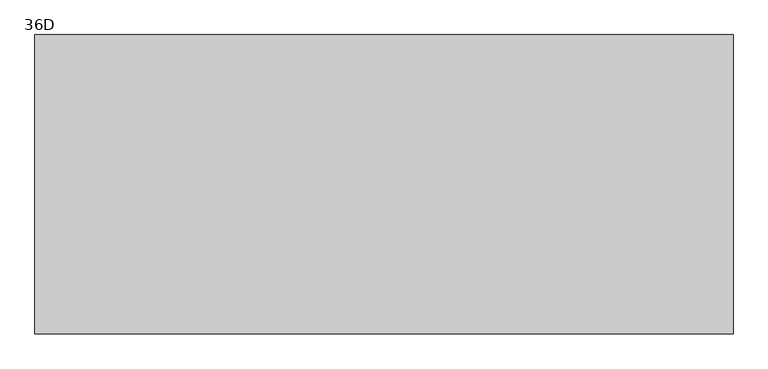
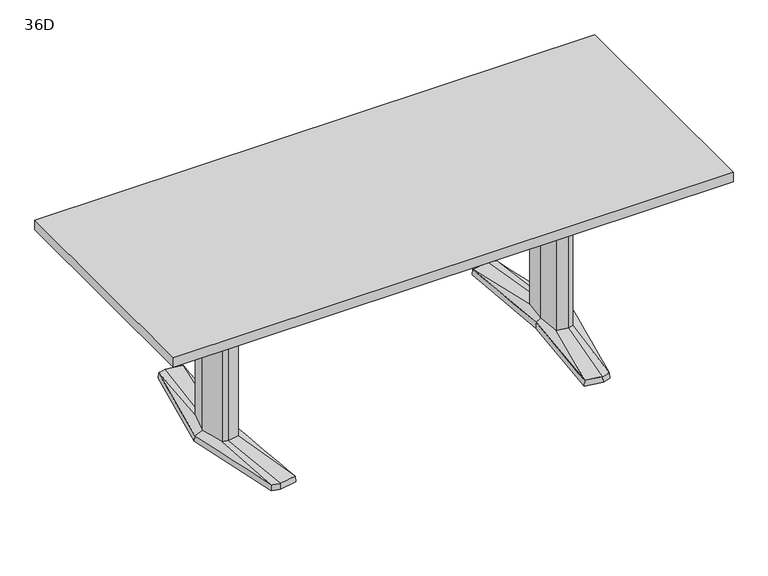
"""IFC4 building model written with IfcOpenShell, lengths in millimetres: furniture geometry, Coalesse_AM_Table_Conference_ETable2_Rectangular_84in_AluminiumBase : 36D."""

import ifcopenshell
import ifcopenshell.guid

model = None  # the IFC model being written
_history = None  # IfcOwnerHistory: only IFC2X3 demands one
_inside = {}  # id of a spatial element -> (the spatial element, [elements in it])
_under = {}  # id of a project, library or spatial element -> (it, [spatial elements below it])
_declared = {}  # id of a project -> (the project, [libraries it declares])
_typed = {}  # id of a type object -> (the type object, [elements of that type])
_made_of = {}  # id of a material, layer set ... -> (it, [elements and type objects made of it])


def new_model(schema):
    """Start an empty IFC model of exactly this schema.

    Asked for "IFC4X3", IfcOpenShell would pick the latest addendum, in which some entities
    have other attributes; the version numbers below select the first issue.
    IFC2X3 requires an IfcOwnerHistory on every rooted entity: one is made here for all.
    """
    global model, _history
    if schema == "IFC4X3":
        model = ifcopenshell.file(schema_version=(4, 3, 0, 0))
    else:
        model = ifcopenshell.file(schema=schema)
    _inside.clear()
    _under.clear()
    _declared.clear()
    _typed.clear()
    _made_of.clear()
    _history = None
    if model.schema == "IFC2X3":
        org = make("IfcOrganization", Name="unknown")
        user = make(
            "IfcPersonAndOrganization",
            ThePerson=make("IfcPerson", FamilyName="unknown"),
            TheOrganization=org,
        )
        app = make(
            "IfcApplication",
            ApplicationDeveloper=org,
            Version="unknown",
            ApplicationFullName="unknown",
            ApplicationIdentifier="unknown",
        )
        _history = make(
            "IfcOwnerHistory",
            OwningUser=user,
            OwningApplication=app,
            ChangeAction="ADDED",
            CreationDate=0,
        )
    return model


def make(cls, **values):
    """One entity of the class cls with the attributes given. An attribute that is None is left unset."""
    return model.create_entity(
        cls, **{name: value for name, value in values.items() if value is not None}
    )


def rooted(cls, **values):
    """An entity with a GlobalId (a new one), such as an element, a storey or a relation."""
    return make(cls, GlobalId=ifcopenshell.guid.new(), OwnerHistory=_history, **values)


def si_unit(unit_type, name, prefix=None):
    """IfcSIUnit, for example si_unit("LENGTHUNIT", "METRE", prefix="MILLI")."""
    return make("IfcSIUnit", UnitType=unit_type, Prefix=prefix, Name=name)


def assignment(units):
    """IfcUnitAssignment: the units of a project."""
    return None if units is None else make("IfcUnitAssignment", Units=units)


def point(xyz):
    """IfcCartesianPoint."""
    return None if xyz is None else make("IfcCartesianPoint", Coordinates=xyz)


def direction(xyz):
    """IfcDirection."""
    return None if xyz is None else make("IfcDirection", DirectionRatios=xyz)


def frame(location, z_axis=None, x_axis=None):
    """IfcAxis2Placement3D, a coordinate frame: its origin and axes. An axis left out is left unset."""
    return make(
        "IfcAxis2Placement3D",
        Location=point(location),
        Axis=direction(z_axis),
        RefDirection=direction(x_axis),
    )


def origin():
    """The frame at (0, 0, 0) with its axes left unset."""
    return frame((0.0, 0.0, 0.0))


def place(relative_to, where):
    """IfcLocalPlacement: puts the frame where relative to a parent placement (None: the world)."""
    return make(
        "IfcLocalPlacement", PlacementRelTo=relative_to, RelativePlacement=where
    )


def context(
    kind, dimensions, precision=None, world=None, true_north=None, identifier=None
):
    """IfcGeometricRepresentationContext, for example the 3D "Model" context."""
    return make(
        "IfcGeometricRepresentationContext",
        ContextIdentifier=identifier,
        ContextType=kind,
        CoordinateSpaceDimension=dimensions,
        Precision=precision,
        WorldCoordinateSystem=world,
        TrueNorth=true_north,
    )


def project(units=None, contexts=None):
    """IfcProject with its units and contexts."""
    return rooted(
        "IfcProject",
        Name="project",
        RepresentationContexts=contexts,
        UnitsInContext=assignment(units),
    )


def spatial(cls, under=None, at=None, **own):
    """A site, building, storey or space (cls), placed at a placement, below another one or the project."""
    s = rooted(cls, ObjectPlacement=at, **own)
    if under is not None:
        _under.setdefault(under.id(), (under, []))[1].append(s)
    return s


def polyline(points):
    """IfcPolyline through the points."""
    return make("IfcPolyline", Points=[point(p) for p in points])


def outline(outer, holes=None, kind="AREA"):
    """IfcArbitraryClosedProfileDef: a profile drawn as a closed curve; with holes, ...WithVoids."""
    if holes is None:
        return make("IfcArbitraryClosedProfileDef", ProfileType=kind, OuterCurve=outer)
    return make(
        "IfcArbitraryProfileDefWithVoids",
        ProfileType=kind,
        OuterCurve=outer,
        InnerCurves=holes,
    )


def extrude(swept, where, along, depth):
    """IfcExtrudedAreaSolid: the profile swept, set in the frame where, extruded along a direction by depth."""
    return make(
        "IfcExtrudedAreaSolid",
        SweptArea=swept,
        Position=where,
        ExtrudedDirection=direction(along),
        Depth=depth,
    )


def shape(context_of_items, identifier, shape_type, items):
    """IfcShapeRepresentation: the items that make up one representation, for example the "Body"."""
    return make(
        "IfcShapeRepresentation",
        ContextOfItems=context_of_items,
        RepresentationIdentifier=identifier,
        RepresentationType=shape_type,
        Items=items,
    )


def source(mapping_origin, context_of_items, identifier, shape_type, items):
    """IfcRepresentationMap: a shape defined once, which mapped items show again and again."""
    return make(
        "IfcRepresentationMap",
        MappingOrigin=mapping_origin,
        MappedRepresentation=shape(context_of_items, identifier, shape_type, items),
    )


def transform(
    local_origin,
    x_axis=None,
    y_axis=None,
    z_axis=None,
    scale=None,
    scale2=None,
    scale3=None,
    uniform=True,
):
    """IfcCartesianTransformationOperator3D, or its non-uniform kind. x_axis, y_axis, z_axis: its Axis1, 2, 3."""
    if uniform:
        return make(
            "IfcCartesianTransformationOperator3D",
            Axis1=direction(x_axis),
            Axis2=direction(y_axis),
            LocalOrigin=point(local_origin),
            Scale=scale,
            Axis3=direction(z_axis),
        )
    return make(
        "IfcCartesianTransformationOperator3DnonUniform",
        Axis1=direction(x_axis),
        Axis2=direction(y_axis),
        LocalOrigin=point(local_origin),
        Scale=scale,
        Axis3=direction(z_axis),
        Scale2=scale2,
        Scale3=scale3,
    )


def mapped(mapping_source, mapping_target):
    """IfcMappedItem: shows the shape of a source again, moved by a transform."""
    return make(
        "IfcMappedItem", MappingSource=mapping_source, MappingTarget=mapping_target
    )


def made_of(thing, what):
    """Note that an element or type object is made of a material, layer set ...; save() writes the relation."""
    if what is not None:
        _made_of.setdefault(what.id(), (what, []))[1].append(thing)
    return thing


def element(
    cls,
    number,
    at=None,
    inside=None,
    cuts=None,
    type_object=None,
    material=None,
    context=None,
    identifier="Body",
    shape_type=None,
    held_by="IfcProductDefinitionShape",
    body=None,
    shapes=None,
    **own,
):
    """One element of the class cls, such as IfcWall. Its Tag is "e" and its number.

    at: its placement. inside: the storey or other place that contains it. cuts: it is an
    opening in that element (IfcRelVoidsElement). A single representation is given by context,
    identifier, shape_type and body (its items); several are given by shapes. held_by: the class
    of the entity that holds the representations. save() writes the other relations.
    """
    e = rooted(cls, Tag="e%d" % number, ObjectPlacement=at, **own)
    if body is not None:
        shapes = [shape(context, identifier, shape_type, body)]
    if shapes is not None:
        e.Representation = make(held_by, Representations=shapes)
    if inside is not None:
        _inside.setdefault(inside.id(), (inside, []))[1].append(e)
    if cuts is not None:
        rooted(
            "IfcRelVoidsElement", RelatingBuildingElement=cuts, RelatedOpeningElement=e
        )
    if type_object is not None:
        _typed.setdefault(type_object.id(), (type_object, []))[1].append(e)
    return made_of(e, material)


def aggregate(whole, parts):
    """IfcRelAggregates: a whole, such as a stair, and the parts it consists of."""
    return rooted("IfcRelAggregates", RelatingObject=whole, RelatedObjects=parts)


def save(model, path):
    """Write the relations noted so far, then the file.

    IfcRelAggregates (storeys below a building ...), IfcRelContainedInSpatialStructure (elements
    in a storey), IfcRelDefinesByType, IfcRelAssociatesMaterial and IfcRelDeclares: one each for
    every whole, place, type object, material and project.
    """
    for whole, parts in _under.values():
        aggregate(whole, parts)
    for where, things in _inside.values():
        rooted(
            "IfcRelContainedInSpatialStructure",
            RelatedElements=things,
            RelatingStructure=where,
        )
    for kind, things in _typed.values():
        rooted("IfcRelDefinesByType", RelatedObjects=things, RelatingType=kind)
    for what, things in _made_of.values():
        rooted("IfcRelAssociatesMaterial", RelatedObjects=things, RelatingMaterial=what)
    for by, libraries in _declared.values():
        rooted("IfcRelDeclares", RelatingContext=by, RelatedDefinitions=libraries)
    model.write(path)


def plane_surface(at):
    """IfcPlane: the flat surface through the origin of the frame at, square to its z axis."""
    return make("IfcPlane", Position=at)


def spline_surface(u_degree, v_degree, points, u_multiplicities, v_multiplicities, u_knots, v_knots, weights=None):
    """IfcBSplineSurfaceWithKnots; with weights, IfcRationalBSplineSurfaceWithKnots. points: one row for each step in u."""
    own = dict(
        UDegree=u_degree,
        VDegree=v_degree,
        ControlPointsList=[[point(p) for p in row] for row in points],
        SurfaceForm="UNSPECIFIED",
        UClosed=False,
        VClosed=False,
        SelfIntersect=False,
        UMultiplicities=u_multiplicities,
        VMultiplicities=v_multiplicities,
        UKnots=u_knots,
        VKnots=v_knots,
        KnotSpec="UNSPECIFIED",
    )
    if weights is None:
        return make("IfcBSplineSurfaceWithKnots", **own)
    return make("IfcRationalBSplineSurfaceWithKnots", WeightsData=weights, **own)


def advanced_brep(points, edges, surfaces, faces):
    """IfcAdvancedBrep: a solid bounded by faces that lie on surfaces and meet in shared edges.

    An edge is (start, end): straight between two places in points (the first is 0);
    or (start, end, curve); or (start, end, curve, False) where it runs against its curve.
    A face is (place in surfaces, loops), or (place, loops, False) where it looks against
    its surface's normal. A loop lists edges by number (the first is 1), with a minus sign
    where the edge is run from its end to its start. The first loop is the outer one.
    """
    corners = [point(p) for p in points]
    vertices = [make("IfcVertexPoint", VertexGeometry=c) for c in corners]
    made = []
    for start, end, *more in edges:
        made.append(
            make(
                "IfcEdgeCurve",
                EdgeStart=vertices[start],
                EdgeEnd=vertices[end],
                EdgeGeometry=more[0] if more else make("IfcPolyline", Points=[corners[start], corners[end]]),
                SameSense=more[1] if len(more) > 1 else True,
            )
        )
    hull = []
    for where, loops, *sense in faces:
        bounds = []
        for j, loop in enumerate(loops):
            ring = [make("IfcOrientedEdge", EdgeElement=made[abs(k) - 1], Orientation=k > 0) for k in loop]
            bounds.append(
                make(
                    "IfcFaceOuterBound" if j == 0 else "IfcFaceBound",
                    Bound=make("IfcEdgeLoop", EdgeList=ring),
                    Orientation=True,
                )
            )
        hull.append(make("IfcAdvancedFace", Bounds=bounds, FaceSurface=surfaces[where], SameSense=sense[0] if sense else True))
    return make("IfcAdvancedBrep", Outer=make("IfcClosedShell", CfsFaces=hull))


def furniture_36d_40c2a438(model_context):
    return source(origin(), model_context, "Body", "SolidModel", [
        advanced_brep(
        [(614.8503471, -379.3768856, 25.4), (644.5756636, -371.5332654, 25.4), (668.2327243, -89.293702, 36.5125), (648.9795254, -94.605478, 36.5125), (606.0521001, -87.0529327, 36.5125), (551.7612538, -368.5071562, 25.4), (597.9364207, 0.0, 36.5125), (579.8389754, 0.3970149, 25.4), (606.0521001, 87.0529327, 36.5125), (551.7615002, 368.5172593, 25.4), (648.9795254, 94.605478, 36.5125), (614.8502233, 379.3769183, 25.4), (668.2327243, 89.293702, 36.5125), (644.7535458, 371.4863276, 25.4), (692.1595251, 0.0, 36.5125), (721.4851663, 0.0003516, 25.4), (578.2468742, 0.3968871, 3.175), (550.06875, 369.8367279, 3.175), (614.9213004, 381.0, 3.175), (646.1093245, 372.7704151, 3.175), (723.10625, 0.0, 3.175), (645.9309817, -372.8174744, 3.175), (614.9213004, -381.0, 3.175), (550.06875, -369.8264415, 3.175), (649.5979264, 107.6121478, 3.175), (594.3065451, 97.8843184, 3.175), (585.1810887, 0.0, 3.175), (594.3065451, -97.8843184, 3.175), (649.5979264, -107.6121478, 3.175), (678.6183473, -99.6056872, 3.175), (705.3083085, 0.0, 3.175), (678.6183473, 99.6056872, 3.175), (613.4286812, 346.9152841, 3.175), (557.7811371, 337.3364985, 3.175), (560.1889918, 324.8641942, 3.175), (612.8600644, 333.9306305, 3.175), (648.6725609, 324.4807859, 3.175), (647.5544526, 337.9105158, 3.175), (613.4286812, -346.9152841, 3.175), (647.5544526, -337.9105158, 3.175), (648.6725609, -324.4807859, 3.175), (612.8600644, -333.9306305, 3.175), (560.1889918, -324.8641942, 3.175), (557.7811371, -337.3364985, 3.175), (649.5979264, 107.6121478, 0.0), (678.6183473, 99.6056872, 0.0), (705.3083085, 0.0, 0.0), (678.6183473, -99.6056872, 0.0), (649.5979264, -107.6121478, 0.0), (594.3065451, -97.8843184, 0.0), (585.1810887, 0.0, 0.0), (594.3065451, 97.8843184, 0.0), (613.4286812, 346.9152841, 0.0), (647.5544526, 337.9105158, 0.0), (648.6725609, 324.4807859, 0.0), (612.8600644, 333.9306305, 0.0), (560.1889918, 324.8641942, 0.0), (557.7811371, 337.3364985, 0.0), (613.4286812, -346.9152841, 0.0), (557.7811371, -337.3364985, 0.0), (560.1889918, -324.8641942, 0.0), (612.8600644, -333.9306305, 0.0), (648.6725609, -324.4807859, 0.0), (647.5544526, -337.9105158, 0.0), (668.2327243, 89.293702, 698.5), (648.9795254, 94.605478, 698.5), (606.0521001, 87.0529327, 698.5), (597.9364207, 0.0, 698.5), (606.0521001, -87.0529327, 698.5), (648.9795254, -94.605478, 698.5), (668.2327243, -89.293702, 698.5), (692.1595251, 0.0, 698.5)],
        [
            (0, 1),
            (1, 2),
            (2, 3),
            (3, 0),
            (3, 4),
            (4, 5),
            (5, 0),
            (4, 6),
            (6, 7),
            (7, 5),
            (6, 8),
            (8, 9),
            (9, 7),
            (8, 10),
            (10, 11),
            (11, 9),
            (10, 12),
            (12, 13),
            (13, 11),
            (12, 14),
            (14, 15),
            (15, 13),
            (1, 15),
            (14, 2),
            (16, 17),
            (17, 18),
            (18, 19),
            (19, 20),
            (20, 21),
            (21, 22),
            (22, 23),
            (23, 16),
            (24, 25),
            (25, 26),
            (26, 27),
            (27, 28),
            (28, 29),
            (29, 30),
            (30, 31),
            (31, 24),
            (32, 33),
            (33, 34),
            (34, 35),
            (35, 36),
            (36, 37),
            (37, 32),
            (38, 39),
            (39, 40),
            (40, 41),
            (41, 42),
            (42, 43),
            (43, 38),
            (16, 7),
            (9, 17),
            (11, 18),
            (13, 19),
            (15, 20),
            (1, 21),
            (0, 22),
            (5, 23),
            (44, 45),
            (45, 46),
            (46, 47),
            (47, 48),
            (48, 49),
            (49, 50),
            (50, 51),
            (51, 44),
            (52, 53),
            (53, 54),
            (54, 55),
            (55, 56),
            (56, 57),
            (57, 52),
            (58, 59),
            (59, 60),
            (60, 61),
            (61, 62),
            (62, 63),
            (63, 58),
            (44, 24),
            (31, 45),
            (30, 46),
            (29, 47),
            (28, 48),
            (27, 49),
            (26, 50),
            (25, 51),
            (52, 32),
            (37, 53),
            (36, 54),
            (35, 55),
            (34, 56),
            (33, 57),
            (58, 38),
            (43, 59),
            (42, 60),
            (41, 61),
            (40, 62),
            (39, 63),
            (64, 65),
            (65, 66),
            (66, 67),
            (67, 68),
            (68, 69),
            (69, 70),
            (70, 71),
            (71, 64),
            (71, 14),
            (12, 64),
            (70, 2),
            (69, 3),
            (68, 4),
            (67, 6),
            (66, 8),
            (65, 10),
        ],
        [
            spline_surface(1, 1, [[(644.5756636, -371.5332654, 25.4), (614.8503471, -379.3768856, 25.4)], [(668.2327243, -89.293702, 36.5125), (648.9795254, -94.605478, 36.5125)]], [2, 2], [2, 2], [0.0, 1.0], [0.0, 1.0]),
            spline_surface(1, 1, [[(614.8503471, -379.3768856, 25.4), (551.7612538, -368.5071562, 25.4)], [(648.9795254, -94.605478, 36.5125), (606.0521001, -87.0529327, 36.5125)]], [2, 2], [2, 2], [0.0, 1.0], [0.0, 1.0]),
            spline_surface(1, 1, [[(551.7612538, -368.5071562, 25.4), (579.8389754, 0.3970149, 25.4)], [(606.0521001, -87.0529327, 36.5125), (597.9364207, 0.0, 36.5125)]], [2, 2], [2, 2], [0.0, 1.0], [0.0, 1.0]),
            spline_surface(1, 1, [[(579.8389754, 0.3970149, 25.4), (551.7615002, 368.5172593, 25.4)], [(597.9364207, 0.0, 36.5125), (606.0521001, 87.0529327, 36.5125)]], [2, 2], [2, 2], [0.0, 1.0], [0.0, 1.0]),
            spline_surface(1, 1, [[(551.7615002, 368.5172593, 25.4), (614.8502233, 379.3769183, 25.4)], [(606.0521001, 87.0529327, 36.5125), (648.9795254, 94.605478, 36.5125)]], [2, 2], [2, 2], [0.0, 1.0], [0.0, 1.0]),
            spline_surface(1, 1, [[(614.8502233, 379.3769183, 25.4), (644.7535458, 371.4863276, 25.4)], [(648.9795254, 94.605478, 36.5125), (668.2327243, 89.293702, 36.5125)]], [2, 2], [2, 2], [0.0, 1.0], [0.0, 1.0]),
            spline_surface(1, 1, [[(644.7535458, 371.4863276, 25.4), (721.4851663, 0.0003516, 25.4)], [(668.2327243, 89.293702, 36.5125), (692.1595251, 0.0, 36.5125)]], [2, 2], [2, 2], [0.0, 1.0], [0.0, 1.0]),
            spline_surface(1, 1, [[(721.4851663, 0.0003516, 25.4), (644.5756636, -371.5332654, 25.4)], [(692.1595251, 0.0, 36.5125), (668.2327243, -89.293702, 36.5125)]], [2, 2], [2, 2], [0.0, 1.0], [0.0, 1.0]),
            plane_surface(frame((615.4216914, 0.0450143, 3.175), z_axis=(0.0, 0.0, -1.0), x_axis=(-0.9669048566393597, -0.2551372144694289, 0.0))),
            plane_surface(frame((564.1578121, 185.1168075, 3.175), z_axis=(-0.9945699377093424, -0.07585840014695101, 0.0712470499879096), x_axis=(-0.07605167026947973, 0.9971038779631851, 0.0))),
            plane_surface(frame((582.4950252, 375.418364, 3.175), z_axis=(-0.1692071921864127, 0.9830019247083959, 0.07124704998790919), x_axis=(0.985506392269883, 0.16963829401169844, 0.0))),
            plane_surface(frame((630.5153124, 376.8852076, 3.175), z_axis=(0.2544888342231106, 0.9644476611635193, 0.07124704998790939), x_axis=(0.9669048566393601, -0.25513721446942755, 0.0))),
            plane_surface(frame((684.6077872, 186.3852076, 3.175), z_axis=(0.9768383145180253, 0.2017690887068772, 0.07124704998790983), x_axis=(0.20228315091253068, -0.9793270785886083, 0.0))),
            plane_surface(frame((684.5186158, -186.4087372, 3.175), z_axis=(0.9767507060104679, -0.20219276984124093, 0.07124704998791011), x_axis=(-0.2027079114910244, -0.9792392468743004, 0.0))),
            plane_surface(frame((630.426141, -376.9087372, 3.175), z_axis=(0.2544888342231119, -0.9644476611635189, 0.0712470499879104), x_axis=(-0.9669048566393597, -0.2551372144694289, 0.0))),
            plane_surface(frame((582.4950252, -375.4132207, 3.175), z_axis=(-0.16935861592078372, -0.982975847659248, 0.07124704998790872), x_axis=(-0.9854802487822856, 0.16979010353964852, 0.0))),
            plane_surface(frame((564.1578121, -184.7147772, 3.175), z_axis=(-0.9945820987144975, 0.07569878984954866, 0.07124704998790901), x_axis=(0.07589165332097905, 0.9971160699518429, 0.0))),
            plane_surface(frame((652.3571479, 106.8509046, 0.0), z_axis=(0.0, 0.0, -1.0000000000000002), x_axis=(-0.9639855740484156, 0.26595453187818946, 0.0))),
            plane_surface(frame((649.5979264, 107.6121478, 3.175), z_axis=(0.26595453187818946, 0.9639855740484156, 0.0), x_axis=(0.0, 0.0, -1.0))),
            plane_surface(frame((678.6183473, 99.6056872, 3.175), z_axis=(0.9659241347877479, 0.2588253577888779, 0.0), x_axis=(0.0, 0.0, -1.0))),
            plane_surface(frame((705.3083085, 0.0, 3.175), z_axis=(0.9659241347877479, -0.2588253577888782, 0.0), x_axis=(0.0, 0.0, -1.0))),
            plane_surface(frame((678.6183473, -99.6056872, 3.175), z_axis=(0.26595453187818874, -0.9639855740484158, 0.0), x_axis=(0.0, 0.0, -1.0))),
            plane_surface(frame((649.5979264, -107.6121478, 3.175), z_axis=(-0.17327617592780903, -0.9848732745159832, 0.0), x_axis=(0.0, 0.0, -1.0))),
            plane_surface(frame((594.3065451, -97.8843184, 3.175), z_axis=(-0.9956824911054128, -0.0928244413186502, 0.0), x_axis=(0.0, 0.0, -1.0))),
            plane_surface(frame((585.1810887, 0.0, 3.175), z_axis=(-0.9956824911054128, 0.09282444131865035, 0.0), x_axis=(0.0, 0.0, -1.0))),
            plane_surface(frame((594.3065451, 97.8843184, 3.175), z_axis=(-0.17327617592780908, 0.984873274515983, 0.0), x_axis=(0.0, 0.0, -1.0))),
            plane_surface(frame((613.4286812, 346.9152841, 3.175), z_axis=(0.25513721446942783, 0.9669048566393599, 0.0), x_axis=(0.0, 0.0, -1.0))),
            plane_surface(frame((647.5544526, 337.9105158, 3.175), z_axis=(0.9965521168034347, 0.0829691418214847, 0.0), x_axis=(0.0, 0.0, -1.0))),
            plane_surface(frame((648.6725609, 324.4807859, 3.175), z_axis=(-0.25513721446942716, -0.9669048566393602, 0.0), x_axis=(0.0, 0.0, -1.0))),
            plane_surface(frame((612.8600644, 333.9306305, 3.175), z_axis=(0.16963829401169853, -0.985506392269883, 0.0), x_axis=(0.0, 0.0, -1.0))),
            plane_surface(frame((560.1889918, 324.8641942, 3.175), z_axis=(-0.9818699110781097, -0.18955600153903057, 0.0), x_axis=(0.0, 0.0, -1.0))),
            plane_surface(frame((557.7811371, 337.3364985, 3.175), z_axis=(-0.16963829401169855, 0.9855063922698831, 0.0), x_axis=(0.0, 0.0, -1.0))),
            plane_surface(frame((613.4286812, -346.9152841, 3.175), z_axis=(-0.1696382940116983, -0.9855063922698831, 0.0), x_axis=(0.0, 0.0, -1.0))),
            plane_surface(frame((557.7811371, -337.3364985, 3.175), z_axis=(-0.9818699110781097, 0.18955600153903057, 0.0), x_axis=(0.0, 0.0, -1.0))),
            plane_surface(frame((560.1889918, -324.8641942, 3.175), z_axis=(0.16963829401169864, 0.985506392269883, 0.0), x_axis=(0.0, 0.0, -1.0))),
            plane_surface(frame((612.8600644, -333.9306305, 3.175), z_axis=(-0.2551372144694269, 0.9669048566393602, 0.0), x_axis=(0.0, 0.0, -1.0))),
            plane_surface(frame((648.6725609, -324.4807859, 3.175), z_axis=(0.9965521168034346, -0.0829691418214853, 0.0), x_axis=(0.0, 0.0, -1.0))),
            plane_surface(frame((647.5544526, -337.9105158, 3.175), z_axis=(0.2551372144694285, -0.9669048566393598, 0.0), x_axis=(0.0, 0.0, -1.0))),
            plane_surface(frame((692.1595251, 0.0, 698.5), z_axis=(0.0, 0.0, 1.0), x_axis=(0.25882535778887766, -0.965924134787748, 0.0))),
            plane_surface(frame((668.2327243, 89.293702, 698.5), z_axis=(0.965924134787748, 0.25882535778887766, 0.0), x_axis=(0.0, 0.0, -1.0))),
            plane_surface(frame((692.1595251, 0.0, 698.5), z_axis=(0.965924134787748, -0.2588253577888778, 0.0), x_axis=(0.0, 0.0, -1.0))),
            plane_surface(frame((668.2327243, -89.293702, 698.5), z_axis=(0.2659545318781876, -0.963985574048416, 0.0), x_axis=(0.0, 0.0, -1.0))),
            plane_surface(frame((648.9795254, -94.605478, 698.5), z_axis=(-0.1732761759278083, -0.9848732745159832, 0.0), x_axis=(0.0, 0.0, -1.0))),
            plane_surface(frame((606.0521001, -87.0529327, 698.5), z_axis=(-0.9956824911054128, -0.0928244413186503, 0.0), x_axis=(0.0, 0.0, -1.0))),
            plane_surface(frame((597.9364207, 0.0, 698.5), z_axis=(-0.9956824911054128, 0.09282444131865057, 0.0), x_axis=(0.0, 0.0, -1.0))),
            plane_surface(frame((606.0521001, 87.0529327, 698.5), z_axis=(-0.17327617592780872, 0.9848732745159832, 0.0), x_axis=(0.0, 0.0, -1.0))),
            plane_surface(frame((648.9795254, 94.605478, 698.5), z_axis=(0.26595453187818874, 0.9639855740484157, 0.0), x_axis=(0.0, 0.0, -1.0))),
        ],
        [
            (0, [[1, 2, 3, 4]]),
            (1, [[5, 6, 7, -4]]),
            (2, [[8, 9, 10, -6]]),
            (3, [[11, 12, 13, -9]]),
            (4, [[14, 15, 16, -12]]),
            (5, [[17, 18, 19, -15]]),
            (6, [[20, 21, 22, -18]]),
            (7, [[23, -21, 24, -2]]),
            (8, [[25, 26, 27, 28, 29, 30, 31, 32], [33, 34, 35, 36, 37, 38, 39, 40], [41, 42, 43, 44, 45, 46], [47, 48, 49, 50, 51, 52]]),
            (9, [[53, -13, 54, -25]]),
            (10, [[-54, -16, 55, -26]]),
            (11, [[-55, -19, 56, -27]]),
            (12, [[-56, -22, 57, -28]]),
            (13, [[-57, -23, 58, -29]]),
            (14, [[-58, -1, 59, -30]]),
            (15, [[-59, -7, 60, -31]]),
            (16, [[-60, -10, -53, -32]]),
            (17, [[61, 62, 63, 64, 65, 66, 67, 68]]),
            (17, [[69, 70, 71, 72, 73, 74]]),
            (17, [[75, 76, 77, 78, 79, 80]]),
            (18, [[81, -40, 82, -61]]),
            (19, [[-82, -39, 83, -62]]),
            (20, [[-83, -38, 84, -63]]),
            (21, [[-84, -37, 85, -64]]),
            (22, [[-85, -36, 86, -65]]),
            (23, [[-86, -35, 87, -66]]),
            (24, [[-87, -34, 88, -67]]),
            (25, [[-88, -33, -81, -68]]),
            (26, [[89, -46, 90, -69]]),
            (27, [[-90, -45, 91, -70]]),
            (28, [[-91, -44, 92, -71]]),
            (29, [[-92, -43, 93, -72]]),
            (30, [[-93, -42, 94, -73]]),
            (31, [[-94, -41, -89, -74]]),
            (32, [[95, -52, 96, -75]]),
            (33, [[-96, -51, 97, -76]]),
            (34, [[-97, -50, 98, -77]]),
            (35, [[-98, -49, 99, -78]]),
            (36, [[-99, -48, 100, -79]]),
            (37, [[-100, -47, -95, -80]]),
            (38, [[101, 102, 103, 104, 105, 106, 107, 108]]),
            (39, [[109, -20, 110, -108]]),
            (40, [[111, -24, -109, -107]]),
            (41, [[112, -3, -111, -106]]),
            (42, [[113, -5, -112, -105]]),
            (43, [[114, -8, -113, -104]]),
            (44, [[115, -11, -114, -103]]),
            (45, [[116, -14, -115, -102]]),
            (46, [[-110, -17, -116, -101]]),
        ],
    ),
        advanced_brep(
        [(-614.8503471, -379.3768856, 25.4), (-648.9795254, -94.605478, 36.5125), (-668.2327243, -89.293702, 36.5125), (-644.5756636, -371.5332654, 25.4), (-551.7612538, -368.5071562, 25.4), (-606.0521001, -87.0529327, 36.5125), (-579.8389754, 0.3970149, 25.4), (-597.9364207, 0.0, 36.5125), (-551.7615002, 368.5172593, 25.4), (-606.0521001, 87.0529327, 36.5125), (-614.8502233, 379.3769183, 25.4), (-648.9795254, 94.605478, 36.5125), (-644.7535458, 371.4863276, 25.4), (-668.2327243, 89.293702, 36.5125), (-721.4851663, 0.0003516, 25.4), (-692.1595251, 0.0, 36.5125), (-578.2468742, 0.3968871, 3.175), (-550.06875, -369.8264415, 3.175), (-614.9213004, -381.0, 3.175), (-645.9309817, -372.8174744, 3.175), (-723.10625, 0.0, 3.175), (-646.1093245, 372.7704151, 3.175), (-614.9213004, 381.0, 3.175), (-550.06875, 369.8367279, 3.175), (-649.5979264, 107.6121478, 3.175), (-678.6183473, 99.6056872, 3.175), (-705.3083085, 0.0, 3.175), (-678.6183473, -99.6056872, 3.175), (-649.5979264, -107.6121478, 3.175), (-594.3065451, -97.8843184, 3.175), (-585.1810887, 0.0, 3.175), (-594.3065451, 97.8843184, 3.175), (-613.4286812, 346.9152841, 3.175), (-647.5544526, 337.9105158, 3.175), (-648.6725609, 324.4807859, 3.175), (-612.8600644, 333.9306305, 3.175), (-560.1889918, 324.8641942, 3.175), (-557.7811371, 337.3364985, 3.175), (-613.4286812, -346.9152841, 3.175), (-557.7811371, -337.3364985, 3.175), (-560.1889918, -324.8641942, 3.175), (-612.8600644, -333.9306305, 3.175), (-648.6725609, -324.4807859, 3.175), (-647.5544526, -337.9105158, 3.175), (-649.5979264, 107.6121478, 0.0), (-594.3065451, 97.8843184, 0.0), (-585.1810887, 0.0, 0.0), (-594.3065451, -97.8843184, 0.0), (-649.5979264, -107.6121478, 0.0), (-678.6183473, -99.6056872, 0.0), (-705.3083085, 0.0, 0.0), (-678.6183473, 99.6056872, 0.0), (-613.4286812, 346.9152841, 0.0), (-557.7811371, 337.3364985, 0.0), (-560.1889918, 324.8641942, 0.0), (-612.8600644, 333.9306305, 0.0), (-648.6725609, 324.4807859, 0.0), (-647.5544526, 337.9105158, 0.0), (-613.4286812, -346.9152841, 0.0), (-647.5544526, -337.9105158, 0.0), (-648.6725609, -324.4807859, 0.0), (-612.8600644, -333.9306305, 0.0), (-560.1889918, -324.8641942, 0.0), (-557.7811371, -337.3364985, 0.0), (-668.2327243, 89.293702, 698.5), (-692.1595251, 0.0, 698.5), (-668.2327243, -89.293702, 698.5), (-648.9795254, -94.605478, 698.5), (-606.0521001, -87.0529327, 698.5), (-597.9364207, 0.0, 698.5), (-606.0521001, 87.0529327, 698.5), (-648.9795254, 94.605478, 698.5)],
        [
            (0, 1),
            (1, 2),
            (2, 3),
            (3, 0),
            (0, 4),
            (4, 5),
            (5, 1),
            (4, 6),
            (6, 7),
            (7, 5),
            (6, 8),
            (8, 9),
            (9, 7),
            (8, 10),
            (10, 11),
            (11, 9),
            (10, 12),
            (12, 13),
            (13, 11),
            (12, 14),
            (14, 15),
            (15, 13),
            (2, 15),
            (14, 3),
            (16, 17),
            (17, 18),
            (18, 19),
            (19, 20),
            (20, 21),
            (21, 22),
            (22, 23),
            (23, 16),
            (24, 25),
            (25, 26),
            (26, 27),
            (27, 28),
            (28, 29),
            (29, 30),
            (30, 31),
            (31, 24),
            (32, 33),
            (33, 34),
            (34, 35),
            (35, 36),
            (36, 37),
            (37, 32),
            (38, 39),
            (39, 40),
            (40, 41),
            (41, 42),
            (42, 43),
            (43, 38),
            (23, 8),
            (6, 16),
            (22, 10),
            (21, 12),
            (20, 14),
            (19, 3),
            (18, 0),
            (17, 4),
            (44, 45),
            (45, 46),
            (46, 47),
            (47, 48),
            (48, 49),
            (49, 50),
            (50, 51),
            (51, 44),
            (52, 53),
            (53, 54),
            (54, 55),
            (55, 56),
            (56, 57),
            (57, 52),
            (58, 59),
            (59, 60),
            (60, 61),
            (61, 62),
            (62, 63),
            (63, 58),
            (51, 25),
            (24, 44),
            (50, 26),
            (49, 27),
            (48, 28),
            (47, 29),
            (46, 30),
            (45, 31),
            (57, 33),
            (32, 52),
            (56, 34),
            (55, 35),
            (54, 36),
            (53, 37),
            (63, 39),
            (38, 58),
            (62, 40),
            (61, 41),
            (60, 42),
            (59, 43),
            (64, 65),
            (65, 66),
            (66, 67),
            (67, 68),
            (68, 69),
            (69, 70),
            (70, 71),
            (71, 64),
            (64, 13),
            (15, 65),
            (2, 66),
            (1, 67),
            (5, 68),
            (7, 69),
            (9, 70),
            (11, 71),
        ],
        [
            spline_surface(1, 1, [[(-644.5756636, -371.5332654, 25.4), (-668.2327243, -89.293702, 36.5125)], [(-614.8503471, -379.3768856, 25.4), (-648.9795254, -94.605478, 36.5125)]], [2, 2], [2, 2], [0.0, 1.0], [0.0, 1.0]),
            spline_surface(1, 1, [[(-614.8503471, -379.3768856, 25.4), (-648.9795254, -94.605478, 36.5125)], [(-551.7612538, -368.5071562, 25.4), (-606.0521001, -87.0529327, 36.5125)]], [2, 2], [2, 2], [0.0, 1.0], [0.0, 1.0]),
            spline_surface(1, 1, [[(-551.7612538, -368.5071562, 25.4), (-606.0521001, -87.0529327, 36.5125)], [(-579.8389754, 0.3970149, 25.4), (-597.9364207, 0.0, 36.5125)]], [2, 2], [2, 2], [0.0, 1.0], [0.0, 1.0]),
            spline_surface(1, 1, [[(-579.8389754, 0.3970149, 25.4), (-597.9364207, 0.0, 36.5125)], [(-551.7615002, 368.5172593, 25.4), (-606.0521001, 87.0529327, 36.5125)]], [2, 2], [2, 2], [0.0, 1.0], [0.0, 1.0]),
            spline_surface(1, 1, [[(-551.7615002, 368.5172593, 25.4), (-606.0521001, 87.0529327, 36.5125)], [(-614.8502233, 379.3769183, 25.4), (-648.9795254, 94.605478, 36.5125)]], [2, 2], [2, 2], [0.0, 1.0], [0.0, 1.0]),
            spline_surface(1, 1, [[(-614.8502233, 379.3769183, 25.4), (-648.9795254, 94.605478, 36.5125)], [(-644.7535458, 371.4863276, 25.4), (-668.2327243, 89.293702, 36.5125)]], [2, 2], [2, 2], [0.0, 1.0], [0.0, 1.0]),
            spline_surface(1, 1, [[(-644.7535458, 371.4863276, 25.4), (-668.2327243, 89.293702, 36.5125)], [(-721.4851663, 0.0003516, 25.4), (-692.1595251, 0.0, 36.5125)]], [2, 2], [2, 2], [0.0, 1.0], [0.0, 1.0]),
            spline_surface(1, 1, [[(-721.4851663, 0.0003516, 25.4), (-692.1595251, 0.0, 36.5125)], [(-644.5756636, -371.5332654, 25.4), (-668.2327243, -89.293702, 36.5125)]], [2, 2], [2, 2], [0.0, 1.0], [0.0, 1.0]),
            plane_surface(frame((-615.4216914, 0.0450143, 3.175), z_axis=(0.0, 0.0, -1.0), x_axis=(0.9669048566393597, -0.2551372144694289, 0.0))),
            plane_surface(frame((-564.1578121, 185.1168075, 3.175), z_axis=(0.9945699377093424, -0.07585840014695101, 0.0712470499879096), x_axis=(0.07605167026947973, 0.9971038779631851, 0.0))),
            plane_surface(frame((-582.4950252, 375.418364, 3.175), z_axis=(0.1692071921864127, 0.9830019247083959, 0.07124704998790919), x_axis=(-0.985506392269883, 0.16963829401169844, 0.0))),
            plane_surface(frame((-630.5153124, 376.8852076, 3.175), z_axis=(-0.2544888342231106, 0.9644476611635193, 0.07124704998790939), x_axis=(-0.9669048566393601, -0.25513721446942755, 0.0))),
            plane_surface(frame((-684.6077872, 186.3852076, 3.175), z_axis=(-0.9768383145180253, 0.2017690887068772, 0.07124704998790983), x_axis=(-0.20228315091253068, -0.9793270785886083, 0.0))),
            plane_surface(frame((-684.5186158, -186.4087372, 3.175), z_axis=(-0.9767507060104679, -0.20219276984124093, 0.07124704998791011), x_axis=(0.2027079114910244, -0.9792392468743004, 0.0))),
            plane_surface(frame((-630.426141, -376.9087372, 3.175), z_axis=(-0.2544888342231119, -0.9644476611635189, 0.0712470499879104), x_axis=(0.9669048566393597, -0.2551372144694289, 0.0))),
            plane_surface(frame((-582.4950252, -375.4132207, 3.175), z_axis=(0.16935861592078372, -0.982975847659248, 0.07124704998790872), x_axis=(0.9854802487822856, 0.16979010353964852, 0.0))),
            plane_surface(frame((-564.1578121, -184.7147772, 3.175), z_axis=(0.9945820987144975, 0.07569878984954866, 0.07124704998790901), x_axis=(-0.07589165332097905, 0.9971160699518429, 0.0))),
            plane_surface(frame((-652.3571479, 106.8509046, 0.0), z_axis=(0.0, 0.0, -1.0000000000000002), x_axis=(0.9639855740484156, 0.26595453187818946, 0.0))),
            plane_surface(frame((-649.5979264, 107.6121478, 3.175), z_axis=(-0.26595453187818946, 0.9639855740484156, 0.0), x_axis=(0.0, 0.0, -1.0))),
            plane_surface(frame((-678.6183473, 99.6056872, 3.175), z_axis=(-0.9659241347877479, 0.2588253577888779, 0.0), x_axis=(0.0, 0.0, -1.0))),
            plane_surface(frame((-705.3083085, 0.0, 3.175), z_axis=(-0.9659241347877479, -0.2588253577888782, 0.0), x_axis=(0.0, 0.0, -1.0))),
            plane_surface(frame((-678.6183473, -99.6056872, 3.175), z_axis=(-0.26595453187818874, -0.9639855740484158, 0.0), x_axis=(0.0, 0.0, -1.0))),
            plane_surface(frame((-649.5979264, -107.6121478, 3.175), z_axis=(0.17327617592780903, -0.9848732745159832, 0.0), x_axis=(0.0, 0.0, -1.0))),
            plane_surface(frame((-594.3065451, -97.8843184, 3.175), z_axis=(0.9956824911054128, -0.0928244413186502, 0.0), x_axis=(0.0, 0.0, -1.0))),
            plane_surface(frame((-585.1810887, 0.0, 3.175), z_axis=(0.9956824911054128, 0.09282444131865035, 0.0), x_axis=(0.0, 0.0, -1.0))),
            plane_surface(frame((-594.3065451, 97.8843184, 3.175), z_axis=(0.17327617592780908, 0.984873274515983, 0.0), x_axis=(0.0, 0.0, -1.0))),
            plane_surface(frame((-613.4286812, 346.9152841, 3.175), z_axis=(-0.25513721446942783, 0.9669048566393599, 0.0), x_axis=(0.0, 0.0, -1.0))),
            plane_surface(frame((-647.5544526, 337.9105158, 3.175), z_axis=(-0.9965521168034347, 0.0829691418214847, 0.0), x_axis=(0.0, 0.0, -1.0))),
            plane_surface(frame((-648.6725609, 324.4807859, 3.175), z_axis=(0.25513721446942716, -0.9669048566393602, 0.0), x_axis=(0.0, 0.0, -1.0))),
            plane_surface(frame((-612.8600644, 333.9306305, 3.175), z_axis=(-0.16963829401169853, -0.985506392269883, 0.0), x_axis=(0.0, 0.0, -1.0))),
            plane_surface(frame((-560.1889918, 324.8641942, 3.175), z_axis=(0.9818699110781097, -0.18955600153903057, 0.0), x_axis=(0.0, 0.0, -1.0))),
            plane_surface(frame((-557.7811371, 337.3364985, 3.175), z_axis=(0.16963829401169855, 0.9855063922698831, 0.0), x_axis=(0.0, 0.0, -1.0))),
            plane_surface(frame((-613.4286812, -346.9152841, 3.175), z_axis=(0.1696382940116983, -0.9855063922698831, 0.0), x_axis=(0.0, 0.0, -1.0))),
            plane_surface(frame((-557.7811371, -337.3364985, 3.175), z_axis=(0.9818699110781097, 0.18955600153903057, 0.0), x_axis=(0.0, 0.0, -1.0))),
            plane_surface(frame((-560.1889918, -324.8641942, 3.175), z_axis=(-0.16963829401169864, 0.985506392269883, 0.0), x_axis=(0.0, 0.0, -1.0))),
            plane_surface(frame((-612.8600644, -333.9306305, 3.175), z_axis=(0.2551372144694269, 0.9669048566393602, 0.0), x_axis=(0.0, 0.0, -1.0))),
            plane_surface(frame((-648.6725609, -324.4807859, 3.175), z_axis=(-0.9965521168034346, -0.0829691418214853, 0.0), x_axis=(0.0, 0.0, -1.0))),
            plane_surface(frame((-647.5544526, -337.9105158, 3.175), z_axis=(-0.2551372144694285, -0.9669048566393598, 0.0), x_axis=(0.0, 0.0, -1.0))),
            plane_surface(frame((-692.1595251, 0.0, 698.5), z_axis=(0.0, 0.0, 1.0), x_axis=(-0.25882535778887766, -0.965924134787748, 0.0))),
            plane_surface(frame((-668.2327243, 89.293702, 698.5), z_axis=(-0.965924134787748, 0.25882535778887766, 0.0), x_axis=(0.0, 0.0, -1.0))),
            plane_surface(frame((-692.1595251, 0.0, 698.5), z_axis=(-0.965924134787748, -0.2588253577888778, 0.0), x_axis=(0.0, 0.0, -1.0))),
            plane_surface(frame((-668.2327243, -89.293702, 698.5), z_axis=(-0.2659545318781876, -0.963985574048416, 0.0), x_axis=(0.0, 0.0, -1.0))),
            plane_surface(frame((-648.9795254, -94.605478, 698.5), z_axis=(0.1732761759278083, -0.9848732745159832, 0.0), x_axis=(0.0, 0.0, -1.0))),
            plane_surface(frame((-606.0521001, -87.0529327, 698.5), z_axis=(0.9956824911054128, -0.0928244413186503, 0.0), x_axis=(0.0, 0.0, -1.0))),
            plane_surface(frame((-597.9364207, 0.0, 698.5), z_axis=(0.9956824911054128, 0.09282444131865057, 0.0), x_axis=(0.0, 0.0, -1.0))),
            plane_surface(frame((-606.0521001, 87.0529327, 698.5), z_axis=(0.17327617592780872, 0.9848732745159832, 0.0), x_axis=(0.0, 0.0, -1.0))),
            plane_surface(frame((-648.9795254, 94.605478, 698.5), z_axis=(-0.26595453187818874, 0.9639855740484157, 0.0), x_axis=(0.0, 0.0, -1.0))),
        ],
        [
            (0, [[1, 2, 3, 4]]),
            (1, [[-1, 5, 6, 7]]),
            (2, [[-6, 8, 9, 10]]),
            (3, [[-9, 11, 12, 13]]),
            (4, [[-12, 14, 15, 16]]),
            (5, [[-15, 17, 18, 19]]),
            (6, [[-18, 20, 21, 22]]),
            (7, [[-3, 23, -21, 24]]),
            (8, [[25, 26, 27, 28, 29, 30, 31, 32], [33, 34, 35, 36, 37, 38, 39, 40], [41, 42, 43, 44, 45, 46], [47, 48, 49, 50, 51, 52]]),
            (9, [[-32, 53, -11, 54]]),
            (10, [[-31, 55, -14, -53]]),
            (11, [[-30, 56, -17, -55]]),
            (12, [[-29, 57, -20, -56]]),
            (13, [[-28, 58, -24, -57]]),
            (14, [[-27, 59, -4, -58]]),
            (15, [[-26, 60, -5, -59]]),
            (16, [[-25, -54, -8, -60]]),
            (17, [[61, 62, 63, 64, 65, 66, 67, 68]]),
            (17, [[69, 70, 71, 72, 73, 74]]),
            (17, [[75, 76, 77, 78, 79, 80]]),
            (18, [[-68, 81, -33, 82]]),
            (19, [[-67, 83, -34, -81]]),
            (20, [[-66, 84, -35, -83]]),
            (21, [[-65, 85, -36, -84]]),
            (22, [[-64, 86, -37, -85]]),
            (23, [[-63, 87, -38, -86]]),
            (24, [[-62, 88, -39, -87]]),
            (25, [[-61, -82, -40, -88]]),
            (26, [[-74, 89, -41, 90]]),
            (27, [[-73, 91, -42, -89]]),
            (28, [[-72, 92, -43, -91]]),
            (29, [[-71, 93, -44, -92]]),
            (30, [[-70, 94, -45, -93]]),
            (31, [[-69, -90, -46, -94]]),
            (32, [[-80, 95, -47, 96]]),
            (33, [[-79, 97, -48, -95]]),
            (34, [[-78, 98, -49, -97]]),
            (35, [[-77, 99, -50, -98]]),
            (36, [[-76, 100, -51, -99]]),
            (37, [[-75, -96, -52, -100]]),
            (38, [[101, 102, 103, 104, 105, 106, 107, 108]]),
            (39, [[-101, 109, -22, 110]]),
            (40, [[-102, -110, -23, 111]]),
            (41, [[-103, -111, -2, 112]]),
            (42, [[-104, -112, -7, 113]]),
            (43, [[-105, -113, -10, 114]]),
            (44, [[-106, -114, -13, 115]]),
            (45, [[-107, -115, -16, 116]]),
            (46, [[-108, -116, -19, -109]]),
        ],
    ),
        extrude(outline(polyline([(-1066.8, -457.2), (-1066.8, 457.2), (1066.8, 457.2), (1066.8, -457.2), (-1066.8, -457.2)])), frame((0.0, 0.0, 698.5), z_axis=(0.0, 0.0, 1.0), x_axis=(1.0, 0.0, 0.0)), (0.0, 0.0, 1.0), 38.1),
        extrude(outline(polyline([(96.8375, 698.5), (103.1875, 698.5), (103.1875, 476.25), (-103.1875, 476.25), (-103.1875, 698.5), (-96.8375, 698.5), (-96.8375, 482.6), (96.8375, 482.6), (96.8375, 698.5)])), frame((-597.9364207, 0.0, 0.0), z_axis=(1.0, 0.0, 0.0), x_axis=(0.0, 1.0, 0.0)), (0.0, 0.0, 1.0), 1195.8728415),
    ])


if __name__ == "__main__":
    model = new_model("IFC4")
    model_context = context("Model", 3, world=origin())
    ifc_project = project(units=[si_unit("LENGTHUNIT", "METRE", prefix="MILLI")], contexts=[model_context])
    site = spatial("IfcSite", under=ifc_project)
    building = spatial("IfcBuilding", under=site)
    placement = place(None, origin())
    furniture_36d_shape = furniture_36d_40c2a438(model_context)
    element("IfcFurniture", 1, ObjectType="Coalesse_AM_Table_Conference_ETable2_Rectangular_84in_AluminiumBase : 36D", at=placement, inside=building, context=model_context, shape_type="MappedRepresentation", body=[
        mapped(furniture_36d_shape, transform((0.0, 0.0, 0.0), x_axis=(1.0, 0.0, 0.0), y_axis=(0.0, 1.0, 0.0), z_axis=(0.0, 0.0, 1.0))),
    ])
    save(model, "model.ifc")
